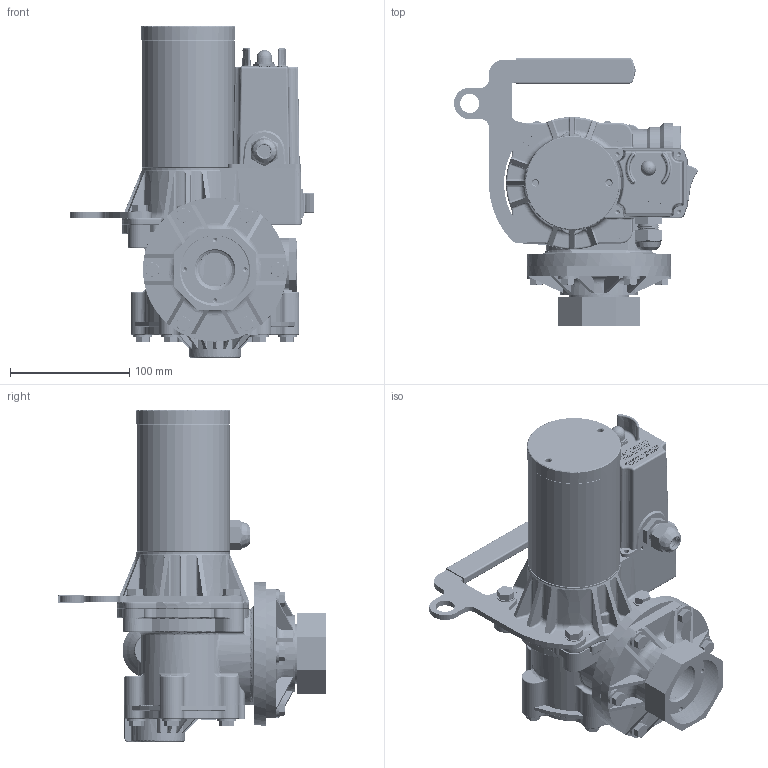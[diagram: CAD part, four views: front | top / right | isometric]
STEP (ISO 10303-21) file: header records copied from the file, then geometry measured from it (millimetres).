
FILE_DESCRIPTION(/* description */ (''),/* implementation_level */ '2;1');
FILE_NAME(/* name */ 'G:\PUBLIC\MKTG\Laura\WEBSITE PUMP MODEL STP\PA-200H-2UR.stp',/* time_stamp */ '2017-06-30T15:19:10-05:00',/* author */ ('gdonbak'),/* organization */ (''),/* preprocessor_version */ 'ST-DEVELOPER v16.5',/* originating_system */ 'Autodesk Inventor 2017',/* authorisation */ '');
FILE_SCHEMA (('AUTOMOTIVE_DESIGN { 1 0 10303 214 3 1 1 }'));
Length unit declared in the file: inch
Products named in the file (1): 118004-11_WEBSITE_MODEL_Shrinkwrap_1
Bounding box: 204.56 x 224.08 x 278.17 mm (x, y, z)
Surface area: 513231.1 mm2 (no closed solid volume)
Topology: 0 solids, 36 shells, 5230 faces, 13580 edges, 8636 vertices
Faces by surface type: plane 2501, bspline 1123, cylinder 877, torus 447, cone 255, sphere 27
Full cylindrical faces by diameter (mm): 1.905 x2, 2.337 x1, 2.438 x1, 3.048 x1, 3.962 x12, 4.559 x1, 4.572 x4, 4.902 x2, 6.35 x20, 6.604 x1, 6.858 x6, 7.1 x1, 7.201 x6, 7.574 x2, 7.62 x2, 7.938 x2, 8.636 x4, 8.89 x2, 9.144 x1, 9.525 x3, 9.931 x12, 10.719 x1, 10.744 x1, 11.112 x5, 11.125 x1, 11.224 x1, 11.227 x1, 11.76 x1, 12.616 x1, 12.7 x1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
Entity records: 218081 total; most frequent: CARTESIAN_POINT 94330, ORIENTED_EDGE 25980, DIRECTION 21644, EDGE_CURVE 12976, VERTEX_POINT 8413, LINE 7226, VECTOR 7226, AXIS2_PLACEMENT_3D 7209
